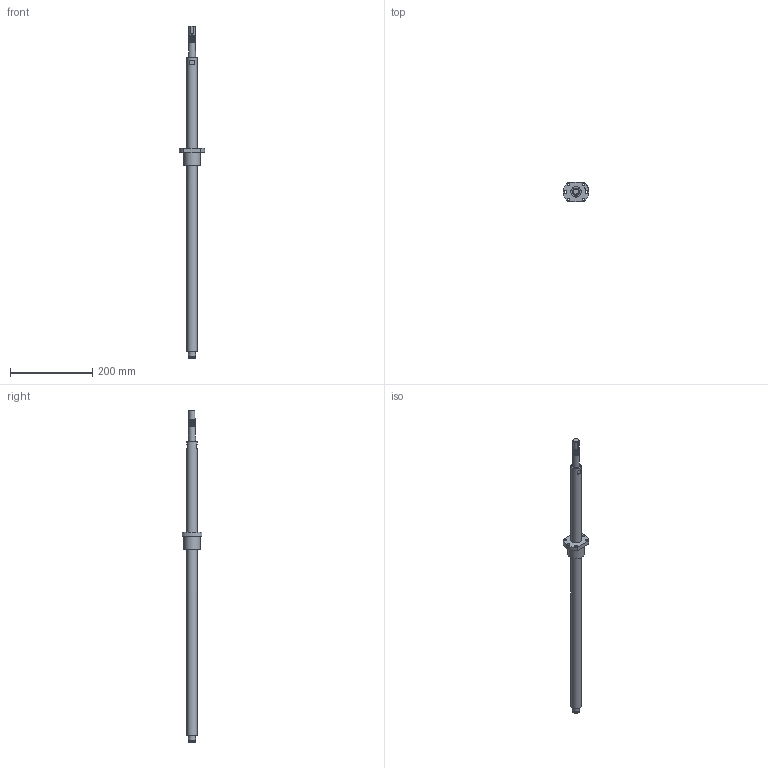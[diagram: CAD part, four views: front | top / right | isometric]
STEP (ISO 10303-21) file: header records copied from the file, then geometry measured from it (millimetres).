
FILE_DESCRIPTION(/* description */ (''),/* implementation_level */ '2;1');
FILE_NAME(/* name */ 'BSG281__G2505-805__stp.stp',/* time_stamp */ '2017-11-21T13:56:43+08:00',/* author */ (''),/* organization */ (''),/* preprocessor_version */ 'ST-DEVELOPER v15',/* originating_system */ 'SIEMENS PLM Software NX 8.5',/* authorisation */ '');
FILE_SCHEMA (('AUTOMOTIVE_DESIGN { 1 0 10303 214 3 1 1 1 }'));
Length unit declared in the file: millimetre
Products named in the file (3): 01; BSG281; BSG281__G2505-805__stp
Assembly tree (2 placements, depth 2):
  BSG281__G2505-805__stp
    BSG281
    01
Bounding box: 61.8 x 48 x 805 mm (x, y, z)
Volume: 412426.8 mm3; surface area: 76999.3 mm2
Topology: 2 solids, 2 shells, 65 faces, 163 edges, 111 vertices
Faces by surface type: cylinder 37, plane 24, bspline 2, cone 2
Full cylindrical faces by diameter (mm): 5 x1, 6 x1, 6.6 x6, 15 x1, 16.2 x1, 17 x19, 25 x2, 40 x1
Entity records: 4681 total; most frequent: CARTESIAN_POINT 3598, DIRECTION 212, ORIENTED_EDGE 170, AXIS2_PLACEMENT_3D 92, EDGE_LOOP 90, EDGE_CURVE 85, FACE_BOUND 69, VERTEX_POINT 67
